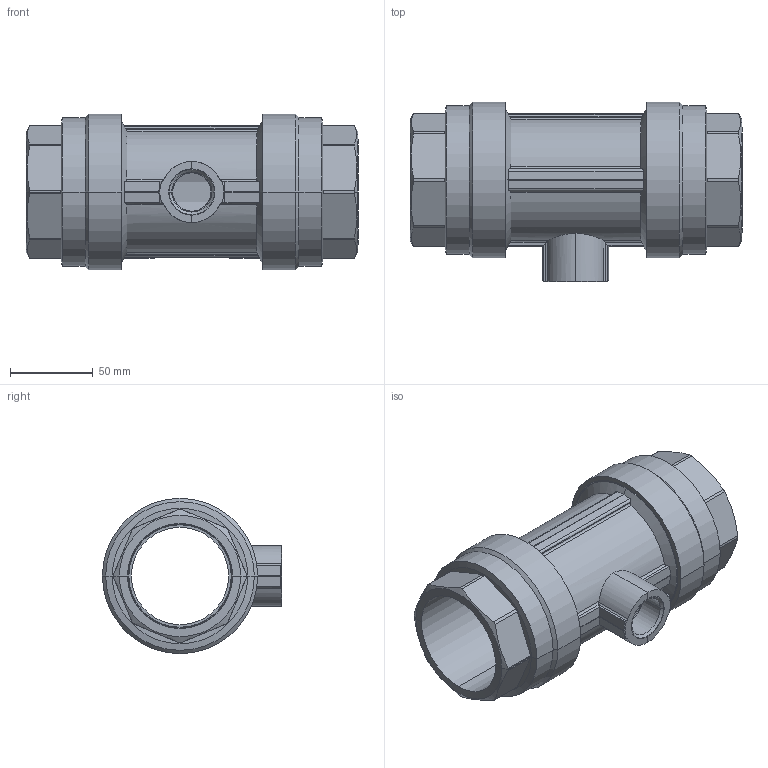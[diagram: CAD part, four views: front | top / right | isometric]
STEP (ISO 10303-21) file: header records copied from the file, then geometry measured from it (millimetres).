
FILE_DESCRIPTION (( 'STEP AP214' ), '1' );
FILE_NAME ('9023600005A.STEP', '2017-07-27T08:35:31', ( '' ), ( '' ), 'SwSTEP 2.0', 'SolidWorks 2016', '' );
FILE_SCHEMA (( 'AUTOMOTIVE_DESIGN' ));
Length unit declared in the file: millimetre
Products named in the file (1): 9023600005A
Bounding box: 200.99 x 108.5 x 94 mm (x, y, z)
Volume: 398197.4 mm3; surface area: 111296.8 mm2
Topology: 1 solids, 1 shells, 275 faces, 737 edges, 477 vertices
Faces by surface type: plane 129, cylinder 72, cone 60, bspline 10, torus 4
Entity records: 12247 total; most frequent: CARTESIAN_POINT 2627, ORIENTED_EDGE 1474, DIRECTION 1228, EDGE_CURVE 737, VERTEX_POINT 477, LINE 416, VECTOR 416, AXIS2_PLACEMENT_3D 406
